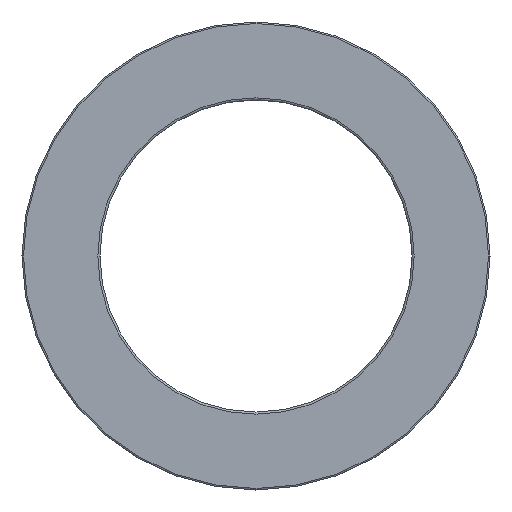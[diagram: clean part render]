
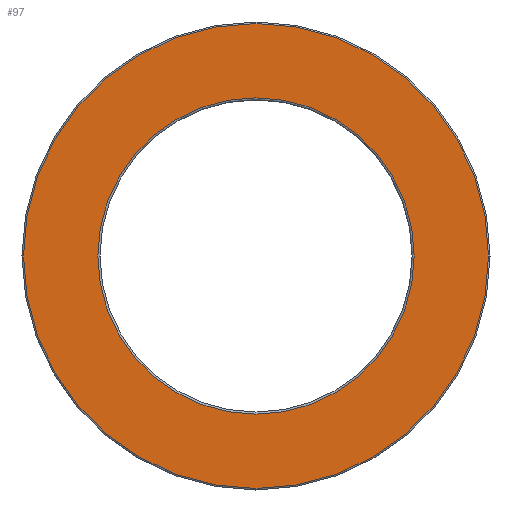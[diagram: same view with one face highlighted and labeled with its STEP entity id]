
A CAD part, left-side view. The second image highlights one B-rep face of the part: STEP entity #97.
In plain terms, the highlighted planar face has unit normal (-1, 0, 0).
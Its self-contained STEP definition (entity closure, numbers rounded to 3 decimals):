
#97=ADVANCED_FACE('',(#166,#167),#168,.F.);
#166=FACE_BOUND('',#238,.T.);
#167=FACE_OUTER_BOUND('',#239,.T.);
#168=PLANE('',#240);
#238=EDGE_LOOP('',(#354));
#239=EDGE_LOOP('',(#355));
#240=AXIS2_PLACEMENT_3D('',#356,#357,#358);
#354=ORIENTED_EDGE('',*,*,#386,.F.);
#355=ORIENTED_EDGE('',*,*,#387,.T.);
#356=CARTESIAN_POINT('',(0.0,59.619,0.0));
#357=DIRECTION('',(1.0,0.0,0.0));
#358=DIRECTION('',(0.0,0.0,-1.0));
#386=EDGE_CURVE('',#432,#432,#433,.T.);
#387=EDGE_CURVE('',#434,#434,#435,.T.);
#432=VERTEX_POINT('',#480);
#433=CIRCLE('',#481,40.558);
#434=VERTEX_POINT('',#482);
#435=CIRCLE('',#483,59.619);
#480=CARTESIAN_POINT('',(0.0,0.0,40.558));
#481=AXIS2_PLACEMENT_3D('',#550,#551,#552);
#482=CARTESIAN_POINT('',(0.0,0.0,59.619));
#483=AXIS2_PLACEMENT_3D('',#553,#554,#555);
#550=CARTESIAN_POINT('',(0.0,0.0,0.0));
#551=DIRECTION('',(-1.0,0.0,0.0));
#552=DIRECTION('',(0.0,0.0,1.0));
#553=CARTESIAN_POINT('',(0.0,0.0,0.0));
#554=DIRECTION('',(-1.0,0.0,0.0));
#555=DIRECTION('',(0.0,0.0,1.0));
